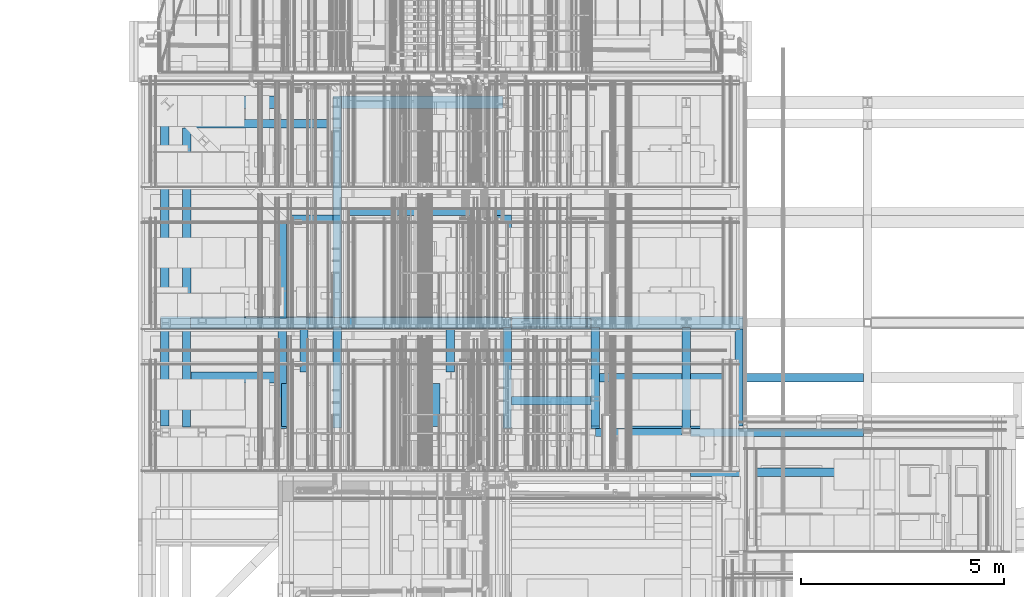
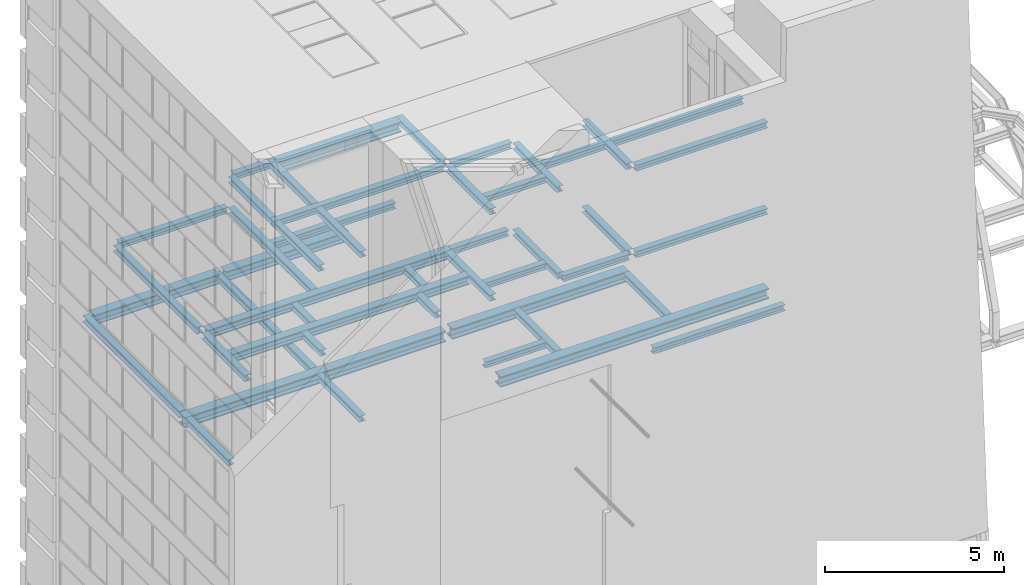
# One storey, part 5 of 583: 47 beams.
"""IFC2X3 building model written with IfcOpenShell, lengths in metres."""

from ifc_helpers import new_model, entity, si_unit, converted_unit, derived_unit, money_unit, direction, frame, origin_with_axes, place, context, subcontext, project, spatial, polyline, outline, extrude, material, type_object, element, save


model = new_model("IFC2X3")

# Units and contexts
model_context = context("Model", 3, precision=1e-05, world=origin_with_axes(), true_north=direction((0.0, 1.0)))
body_context = subcontext(model_context, "Body", "Model", "MODEL_VIEW", scale=1.0)
ifc_project = project(units=[si_unit("LENGTHUNIT", "METRE"), si_unit("AREAUNIT", "SQUARE_METRE"), si_unit("VOLUMEUNIT", "CUBIC_METRE"), si_unit("ABSORBEDDOSEUNIT", "GRAY"), si_unit("AMOUNTOFSUBSTANCEUNIT", "MOLE"), si_unit("DOSEEQUIVALENTUNIT", "SIEVERT"), si_unit("ELECTRICCAPACITANCEUNIT", "FARAD"), si_unit("ELECTRICCHARGEUNIT", "COULOMB"), si_unit("ELECTRICCONDUCTANCEUNIT", "SIEMENS"), si_unit("ELECTRICCURRENTUNIT", "AMPERE"), si_unit("ELECTRICRESISTANCEUNIT", "OHM"), si_unit("ELECTRICVOLTAGEUNIT", "VOLT"), si_unit("ENERGYUNIT", "JOULE"), si_unit("FORCEUNIT", "NEWTON"), si_unit("FREQUENCYUNIT", "HERTZ"), si_unit("ILLUMINANCEUNIT", "LUX"), si_unit("INDUCTANCEUNIT", "HENRY"), si_unit("LUMINOUSFLUXUNIT", "LUMEN"), si_unit("LUMINOUSINTENSITYUNIT", "CANDELA"), si_unit("MAGNETICFLUXDENSITYUNIT", "TESLA"), si_unit("MAGNETICFLUXUNIT", "WEBER"), si_unit("MASSUNIT", "GRAM"), converted_unit("PLANEANGLEUNIT", "degree", entity("IfcReal", 0.0174532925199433), si_unit("PLANEANGLEUNIT", "RADIAN"), dimensions=[0, 0, 0, 0, 0, 0, 0]), si_unit("POWERUNIT", "WATT"), si_unit("PRESSUREUNIT", "PASCAL"), si_unit("RADIOACTIVITYUNIT", "BECQUEREL"), si_unit("SOLIDANGLEUNIT", "STERADIAN"), si_unit("THERMODYNAMICTEMPERATUREUNIT", "KELVIN"), si_unit("TIMEUNIT", "SECOND"), derived_unit("ACCELERATIONUNIT", [(si_unit("LENGTHUNIT", "METRE"), 1), (si_unit("TIMEUNIT", "SECOND"), -2)]), derived_unit("ANGULARVELOCITYUNIT", [(converted_unit("PLANEANGLEUNIT", "degree", entity("IfcReal", 0.0174532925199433), si_unit("PLANEANGLEUNIT", "RADIAN"), dimensions=[0, 0, 0, 0, 0, 0, 0]), 1), (si_unit("TIMEUNIT", "SECOND"), -1)]), derived_unit("CURVATUREUNIT", [(converted_unit("PLANEANGLEUNIT", "degree", entity("IfcReal", 0.0174532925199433), si_unit("PLANEANGLEUNIT", "RADIAN"), dimensions=[0, 0, 0, 0, 0, 0, 0]), 1), (si_unit("LENGTHUNIT", "METRE"), -1)]), derived_unit("DYNAMICVISCOSITYUNIT", [(si_unit("PRESSUREUNIT", "PASCAL"), 1), (si_unit("TIMEUNIT", "SECOND"), 1)]), derived_unit("HEATFLUXDENSITYUNIT", [(si_unit("POWERUNIT", "WATT"), 1), (si_unit("LENGTHUNIT", "METRE"), -2)]), derived_unit("HEATINGVALUEUNIT", [(si_unit("ENERGYUNIT", "JOULE"), 1), (si_unit("MASSUNIT", "GRAM"), -1)]), derived_unit("INTEGERCOUNTRATEUNIT", [(si_unit("TIMEUNIT", "SECOND"), -1)]), derived_unit("IONCONCENTRATIONUNIT", [(si_unit("MASSUNIT", "GRAM"), 1), (si_unit("VOLUMEUNIT", "CUBIC_METRE"), -1)]), derived_unit("ISOTHERMALMOISTURECAPACITYUNIT", [(si_unit("VOLUMEUNIT", "CUBIC_METRE"), 1), (si_unit("MASSUNIT", "GRAM"), -1)]), derived_unit("KINEMATICVISCOSITYUNIT", [(si_unit("AREAUNIT", "SQUARE_METRE"), 1), (si_unit("TIMEUNIT", "SECOND"), -1)]), derived_unit("LINEARFORCEUNIT", [(si_unit("FORCEUNIT", "NEWTON"), 1), (si_unit("LENGTHUNIT", "METRE"), -1)]), derived_unit("LINEARMOMENTUNIT", [(si_unit("FORCEUNIT", "NEWTON"), 1), (si_unit("LENGTHUNIT", "METRE"), -1)]), derived_unit("LINEARSTIFFNESSUNIT", [(si_unit("FORCEUNIT", "NEWTON"), 1), (si_unit("LENGTHUNIT", "METRE"), -1)]), derived_unit("LINEARVELOCITYUNIT", [(si_unit("LENGTHUNIT", "METRE"), 1), (si_unit("TIMEUNIT", "SECOND"), -1)]), derived_unit("LUMINOUSINTENSITYDISTRIBUTIONUNIT", [(si_unit("LUMINOUSINTENSITYUNIT", "CANDELA"), 1), (si_unit("LUMINOUSFLUXUNIT", "LUMEN"), -1)]), derived_unit("MASSDENSITYUNIT", [(si_unit("MASSUNIT", "GRAM"), 1), (si_unit("VOLUMEUNIT", "CUBIC_METRE"), -1)]), derived_unit("MASSFLOWRATEUNIT", [(si_unit("MASSUNIT", "GRAM"), 1), (si_unit("TIMEUNIT", "SECOND"), -1)]), derived_unit("MASSPERLENGTHUNIT", [(si_unit("MASSUNIT", "GRAM"), 1), (si_unit("LENGTHUNIT", "METRE"), -1)]), derived_unit("MODULUSOFELASTICITYUNIT", [(si_unit("FORCEUNIT", "NEWTON"), 1), (si_unit("AREAUNIT", "SQUARE_METRE"), -1)]), derived_unit("MODULUSOFLINEARSUBGRADEREACTIONUNIT", [(si_unit("FORCEUNIT", "NEWTON"), 1), (si_unit("LENGTHUNIT", "METRE"), -2)]), derived_unit("MODULUSOFROTATIONALSUBGRADEREACTIONUNIT", [(si_unit("FORCEUNIT", "NEWTON"), 1), (si_unit("LENGTHUNIT", "METRE"), 1)]), derived_unit("MODULUSOFSUBGRADEREACTIONUNIT", [(si_unit("FORCEUNIT", "NEWTON"), 1), (si_unit("VOLUMEUNIT", "CUBIC_METRE"), -1)]), derived_unit("MOISTUREDIFFUSIVITYUNIT", [(si_unit("VOLUMEUNIT", "CUBIC_METRE"), 1), (si_unit("TIMEUNIT", "SECOND"), -1)]), derived_unit("MOLECULARWEIGHTUNIT", [(si_unit("MASSUNIT", "GRAM"), 1), (si_unit("AMOUNTOFSUBSTANCEUNIT", "MOLE"), -1)]), derived_unit("PLANARFORCEUNIT", [(si_unit("FORCEUNIT", "NEWTON"), 1), (si_unit("LENGTHUNIT", "METRE"), -2)]), derived_unit("ROTATIONALFREQUENCYUNIT", [(si_unit("TIMEUNIT", "SECOND"), -1)]), derived_unit("ROTATIONALMASSUNIT", [(si_unit("MASSUNIT", "GRAM"), 1), (si_unit("LENGTHUNIT", "METRE"), 2)]), derived_unit("ROTATIONALSTIFFNESSUNIT", [(si_unit("FORCEUNIT", "NEWTON"), 1), (si_unit("LENGTHUNIT", "METRE"), 1), (converted_unit("PLANEANGLEUNIT", "degree", entity("IfcReal", 0.0174532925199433), si_unit("PLANEANGLEUNIT", "RADIAN"), dimensions=[0, 0, 0, 0, 0, 0, 0]), -1)]), derived_unit("SECTIONAREAINTEGRALUNIT", [(si_unit("LENGTHUNIT", "METRE"), 5)]), derived_unit("SECTIONMODULUSUNIT", [(si_unit("LENGTHUNIT", "METRE"), 3)]), derived_unit("SHEARMODULUSUNIT", [(si_unit("FORCEUNIT", "NEWTON"), 1), (si_unit("AREAUNIT", "SQUARE_METRE"), -1)]), derived_unit("SOUNDPOWERUNIT", [(si_unit("ENERGYUNIT", "JOULE"), 1), (si_unit("TIMEUNIT", "SECOND"), -1)]), derived_unit("SPECIFICHEATCAPACITYUNIT", [(si_unit("FORCEUNIT", "NEWTON"), 1), (si_unit("MASSUNIT", "GRAM"), -1), (si_unit("THERMODYNAMICTEMPERATUREUNIT", "KELVIN"), -1)]), derived_unit("TEMPERATUREGRADIENTUNIT", [(si_unit("THERMODYNAMICTEMPERATUREUNIT", "KELVIN"), 1), (si_unit("LENGTHUNIT", "METRE"), -1)]), derived_unit("THERMALADMITTANCEUNIT", [(si_unit("POWERUNIT", "WATT"), 1), (si_unit("AREAUNIT", "SQUARE_METRE"), -1), (si_unit("THERMODYNAMICTEMPERATUREUNIT", "KELVIN"), -1)]), derived_unit("THERMALCONDUCTANCEUNIT", [(si_unit("POWERUNIT", "WATT"), 1), (si_unit("LENGTHUNIT", "METRE"), -1), (si_unit("THERMODYNAMICTEMPERATUREUNIT", "KELVIN"), -1)]), derived_unit("THERMALEXPANSIONCOEFFICIENTUNIT", [(si_unit("THERMODYNAMICTEMPERATUREUNIT", "KELVIN"), -1)]), derived_unit("THERMALRESISTANCEUNIT", [(si_unit("AREAUNIT", "SQUARE_METRE"), 1), (si_unit("POWERUNIT", "WATT"), -1)]), derived_unit("THERMALTRANSMITTANCEUNIT", [(si_unit("POWERUNIT", "WATT"), 1), (si_unit("AREAUNIT", "SQUARE_METRE"), -1), (si_unit("THERMODYNAMICTEMPERATUREUNIT", "KELVIN"), -1)]), derived_unit("TORQUEUNIT", [(si_unit("FORCEUNIT", "NEWTON"), 1), (si_unit("LENGTHUNIT", "METRE"), 1)]), derived_unit("VAPORPERMEABILITYUNIT", [(si_unit("MASSUNIT", "GRAM"), 1), (si_unit("TIMEUNIT", "SECOND"), -1)]), derived_unit("VOLUMETRICFLOWRATEUNIT", [(si_unit("VOLUMEUNIT", "CUBIC_METRE"), 1), (si_unit("TIMEUNIT", "SECOND"), -1)]), derived_unit("WARPINGCONSTANTUNIT", [(si_unit("LENGTHUNIT", "METRE"), 6)]), derived_unit("WARPINGMOMENTUNIT", [(si_unit("FORCEUNIT", "NEWTON"), 1), (si_unit("LENGTHUNIT", "METRE"), 2)]), money_unit("GBP")], contexts=[model_context])

# Site, building, storey
site_placement = place(None, origin_with_axes())
site = spatial("IfcSite", under=ifc_project, at=site_placement, Name="Site", CompositionType="ELEMENT")
building_placement = place(site_placement, origin_with_axes())
building = spatial("IfcBuilding", under=site, at=building_placement, Name="Building01", CompositionType="ELEMENT")
storey_placement = place(building_placement, frame((0.0, 0.0, 20.78), z_axis=(0.0, 0.0, 1.0), x_axis=(1.0, 0.0, 0.0)))
storey = spatial("IfcBuildingStorey", under=building, at=storey_placement, Name="RL", CompositionType="ELEMENT", Elevation=20.78)

# Beams
ifc_material = material(Name="A_BSUK_Beams_Steel")
beam_type = type_object("IfcBeamType", Name="A-Beams-Steel", PredefinedType="BEAM")
beam_1_placement = place(storey_placement, frame((0.56275, 8.6408, -6.0532), z_axis=(0.0, -1.0, 0.0), x_axis=(1.0, 0.0, 0.0)))
element("IfcBeam", 1, at=beam_1_placement, inside=storey, type_object=beam_type, material=ifc_material, Name="A-Beams-Steel", ObjectType="A-Beams-Steel", context=body_context, shape_type="SweptSolid", body=[
    extrude(outline(polyline([(0.2036, 0.0), (0.2036, 0.011), (0.1054, 0.011), (0.1054, 0.1922), (0.2036, 0.1922), (0.2036, 0.2032), (0.0, 0.2032), (0.0, 0.1922), (0.0982, 0.1922), (0.0982, 0.011), (0.0, 0.011), (0.0, 0.0), (0.2036, 0.0)])), origin_with_axes(), (0.0, 0.0, 1.0), 2.3816),
])
beam_2_placement = place(storey_placement, frame((0.7691, 14.0688, -6.0532), z_axis=(1.0, 0.0, 0.0), x_axis=(0.0, 1.0, 0.0)))
element("IfcBeam", 2, at=beam_2_placement, inside=storey, type_object=beam_type, material=ifc_material, Name="A-Beams-Steel", ObjectType="A-Beams-Steel", context=body_context, shape_type="SweptSolid", body=[
    extrude(outline(polyline([(0.3112, 0.0), (0.3112, 0.025), (0.1635, 0.025), (0.1635, 0.3021), (0.3112, 0.3021), (0.3112, 0.3271), (0.0, 0.3271), (0.0, 0.3021), (0.1477, 0.3021), (0.1477, 0.025), (0.0, 0.025), (0.0, 0.0), (0.3112, 0.0)])), origin_with_axes(), (0.0, 0.0, 1.0), 4.03635),
])
beam_3_placement = place(storey_placement, frame((0.56, 8.6408, -6.2025), z_axis=(1.0, 0.0, 0.0), x_axis=(0.0, 1.0, 0.0)))
element("IfcBeam", 3, at=beam_3_placement, inside=storey, type_object=beam_type, material=ifc_material, Name="A-Beams-Steel", ObjectType="A-Beams-Steel", context=body_context, shape_type="SweptSolid", body=[
    extrude(outline(polyline([(0.3184, 0.0), (0.3184, 0.0377), (0.1707, 0.0377), (0.1707, 0.3148), (0.3184, 0.3148), (0.3184, 0.3525), (0.0, 0.3525), (0.0, 0.3148), (0.1477, 0.3148), (0.1477, 0.0377), (0.0, 0.0377), (0.0, 0.0), (0.3184, 0.0)])), origin_with_axes(), (0.0, 0.0, 1.0), 8.42545),
])
beam_4_placement = place(storey_placement, frame((9.19455, 8.6408, -6.2025), z_axis=(1.0, 0.0, 0.0), x_axis=(0.0, 1.0, 0.0)))
element("IfcBeam", 4, at=beam_4_placement, inside=storey, type_object=beam_type, material=ifc_material, Name="A-Beams-Steel", ObjectType="A-Beams-Steel", context=body_context, shape_type="SweptSolid", body=[
    extrude(outline(polyline([(0.3184, 0.0), (0.3184, 0.0377), (0.1707, 0.0377), (0.1707, 0.3148), (0.3184, 0.3148), (0.3184, 0.3525), (0.0, 0.3525), (0.0, 0.3148), (0.1477, 0.3148), (0.1477, 0.0377), (0.0, 0.0377), (0.0, 0.0), (0.3184, 0.0)])), origin_with_axes(), (0.0, 0.0, 1.0), 5.70725),
])
beam_5_placement = place(storey_placement, frame((9.19455, 5.9408, -6.2025), z_axis=(1.0, 0.0, 0.0), x_axis=(0.0, 1.0, 0.0)))
element("IfcBeam", 5, at=beam_5_placement, inside=storey, type_object=beam_type, material=ifc_material, Name="A-Beams-Steel", ObjectType="A-Beams-Steel", context=body_context, shape_type="SweptSolid", body=[
    extrude(outline(polyline([(0.3184, 0.0), (0.3184, 0.0377), (0.1707, 0.0377), (0.1707, 0.3148), (0.3184, 0.3148), (0.3184, 0.3525), (0.0, 0.3525), (0.0, 0.3148), (0.1477, 0.3148), (0.1477, 0.0377), (0.0, 0.0377), (0.0, 0.0), (0.3184, 0.0)])), origin_with_axes(), (0.0, 0.0, 1.0), 8.66545),
])
for number, where, z_axis, x_axis, name in (
    (6, (0.56, 14.38, -6.0532), (0.0, -1.0, 0.0), (1.0, 0.0, 0.0), "A-Beams-Steel"),
    (7, (4.80545, 14.38, -6.0722), (0.0, -1.0, 0.0), (1.0, 0.0, 0.0), "A-Beams-Steel"),
):
    element("IfcBeam", number, at=place(storey_placement, frame(where, z_axis=z_axis, x_axis=x_axis)), inside=storey, type_object=beam_type, material=ifc_material, Name=name, ObjectType="A-Beams-Steel", context=body_context, shape_type="SweptSolid", body=[
        extrude(outline(polyline([(0.2091, 0.0), (0.2091, 0.0205), (0.1109, 0.0205), (0.1109, 0.2017), (0.2091, 0.2017), (0.2091, 0.2222), (0.0, 0.2222), (0.0, 0.2017), (0.0982, 0.2017), (0.0982, 0.0205), (0.0, 0.0205), (0.0, 0.0), (0.2091, 0.0)])), origin_with_axes(), (0.0, 0.0, 1.0), 5.4208),
    ])
for number, where, z_axis, x_axis, name in (
    (8, (4.8082, 8.6408, -6.0532), (0.0, -1.0, 0.0), (1.0, 0.0, 0.0), "A-Beams-Steel"),
    (9, (11.1582, 8.6408, -6.0532), (0.0, -1.0, 0.0), (1.0, 0.0, 0.0), "A-Beams-Steel"),
    (10, (14.6982, 8.6408, -6.0532), (0.0, -1.0, 0.0), (1.0, 0.0, 0.0), "A-Beams-Steel"),
):
    element("IfcBeam", number, at=place(storey_placement, frame(where, z_axis=z_axis, x_axis=x_axis)), inside=storey, type_object=beam_type, material=ifc_material, Name=name, ObjectType="A-Beams-Steel", context=body_context, shape_type="SweptSolid", body=[
        extrude(outline(polyline([(0.2036, 0.0), (0.2036, 0.011), (0.1054, 0.011), (0.1054, 0.1922), (0.2036, 0.1922), (0.2036, 0.2032), (0.0, 0.2032), (0.0, 0.1922), (0.0982, 0.1922), (0.0982, 0.011), (0.0, 0.011), (0.0, 0.0), (0.2036, 0.0)])), origin_with_axes(), (0.0, 0.0, 1.0), 2.3816),
    ])
beam_6_placement = place(storey_placement, frame((9.1918, 6.7782, -6.0532), z_axis=(1.0, 0.0, 0.0), x_axis=(0.0, 1.0, 0.0)))
element("IfcBeam", 11, at=beam_6_placement, inside=storey, type_object=beam_type, material=ifc_material, Name="A-Beams-Steel", ObjectType="A-Beams-Steel", context=body_context, shape_type="SweptSolid", body=[
    extrude(outline(polyline([(0.2036, 0.0), (0.2036, 0.011), (0.1054, 0.011), (0.1054, 0.1922), (0.2036, 0.1922), (0.2036, 0.2032), (0.0, 0.2032), (0.0, 0.1922), (0.0982, 0.1922), (0.0982, 0.011), (0.0, 0.011), (0.0, 0.0), (0.2036, 0.0)])), origin_with_axes(), (0.0, 0.0, 1.0), 1.9664),
])
beam_7_placement = place(storey_placement, frame((13.60455, 5.0182, -6.0532), z_axis=(1.0, 0.0, 0.0), x_axis=(0.0, 1.0, 0.0)))
element("IfcBeam", 12, at=beam_7_placement, inside=storey, type_object=beam_type, material=ifc_material, Name="A-Beams-Steel", ObjectType="A-Beams-Steel", context=body_context, shape_type="SweptSolid", body=[
    extrude(outline(polyline([(0.2036, 0.0), (0.2036, 0.011), (0.1054, 0.011), (0.1054, 0.1922), (0.2036, 0.1922), (0.2036, 0.2032), (0.0, 0.2032), (0.0, 0.1922), (0.0982, 0.1922), (0.0982, 0.011), (0.0, 0.011), (0.0, 0.0), (0.2036, 0.0)])), origin_with_axes(), (0.0, 0.0, 1.0), 4.2509),
])
beam_8_placement = place(storey_placement, frame((5.01455, 14.0688, -6.0532), z_axis=(1.0, 0.0, 0.0), x_axis=(0.0, 1.0, 0.0)))
element("IfcBeam", 13, at=beam_8_placement, inside=storey, type_object=beam_type, material=ifc_material, Name="A-Beams-Steel", ObjectType="A-Beams-Steel", context=body_context, shape_type="SweptSolid", body=[
    extrude(outline(polyline([(0.3112, 0.0), (0.3112, 0.025), (0.1635, 0.025), (0.1635, 0.3021), (0.3112, 0.3021), (0.3112, 0.3271), (0.0, 0.3271), (0.0, 0.3021), (0.1477, 0.3021), (0.1477, 0.025), (0.0, 0.025), (0.0, 0.0), (0.3112, 0.0)])), origin_with_axes(), (0.0, 0.0, 1.0), 3.9709),
])
beam_9_placement = place(storey_placement, frame((5.012271, 11.1308, -0.5525), z_axis=(1.0, 0.0, 0.0), x_axis=(0.0, 1.0, 0.0)))
element("IfcBeam", 14, at=beam_9_placement, inside=storey, type_object=beam_type, material=ifc_material, Name="A-Beams-Steel", ObjectType="A-Beams-Steel", context=body_context, shape_type="SweptSolid", body=[
    extrude(outline(polyline([(0.3184, 0.0), (0.3184, 0.0377), (0.1707, 0.0377), (0.1707, 0.3148), (0.3184, 0.3148), (0.3184, 0.3525), (0.0, 0.3525), (0.0, 0.3148), (0.1477, 0.3148), (0.1477, 0.0377), (0.0, 0.0377), (0.0, 0.0), (0.3184, 0.0)])), origin_with_axes(), (0.0, 0.0, 1.0), 3.975929),
])
beam_10_placement = place(storey_placement, frame((3.4512, 11.2456, -0.4032), z_axis=(0.0, -1.0, 0.0), x_axis=(1.0, 0.0, 0.0)))
element("IfcBeam", 15, at=beam_10_placement, inside=storey, type_object=beam_type, material=ifc_material, Name="A-Beams-Steel", ObjectType="A-Beams-Steel", context=body_context, shape_type="SweptSolid", body=[
    extrude(outline(polyline([(0.2036, 0.0), (0.2036, 0.011), (0.1054, 0.011), (0.1054, 0.1922), (0.2036, 0.1922), (0.2036, 0.2032), (0.0, 0.2032), (0.0, 0.1922), (0.0982, 0.1922), (0.0982, 0.011), (0.0, 0.011), (0.0, 0.0), (0.2036, 0.0)])), origin_with_axes(), (0.0, 0.0, 1.0), 2.3424),
])
beam_11_placement = place(storey_placement, frame((4.808222, 11.4492, -0.4032), z_axis=(0.0, -1.0, 0.0), x_axis=(1.0, 0.0, 0.0)))
element("IfcBeam", 16, at=beam_11_placement, inside=storey, type_object=beam_type, material=ifc_material, Name="A-Beams-Steel", ObjectType="A-Beams-Steel", context=body_context, shape_type="SweptSolid", body=[
    extrude(outline(polyline([(0.2036, 0.0), (0.2036, 0.011), (0.1054, 0.011), (0.1054, 0.1922), (0.2036, 0.1922), (0.2036, 0.2032), (0.0, 0.2032), (0.0, 0.1922), (0.0982, 0.1922), (0.0982, 0.011), (0.0, 0.011), (0.0, 0.0), (0.2036, 0.0)])), origin_with_axes(), (0.0, 0.0, 1.0), 2.546),
])
beam_12_placement = place(storey_placement, frame((4.808222, 8.6968, -0.4032), z_axis=(0.0, -1.0, 0.0), x_axis=(1.0, 0.0, 0.0)))
element("IfcBeam", 17, at=beam_12_placement, inside=storey, type_object=beam_type, material=ifc_material, Name="A-Beams-Steel", ObjectType="A-Beams-Steel", context=body_context, shape_type="SweptSolid", body=[
    extrude(outline(polyline([(0.2036, 0.0), (0.2036, 0.011), (0.1054, 0.011), (0.1054, 0.1922), (0.2036, 0.1922), (0.2036, 0.2032), (0.0, 0.2032), (0.0, 0.1922), (0.0982, 0.1922), (0.0982, 0.011), (0.0, 0.011), (0.0, 0.0), (0.2036, 0.0)])), origin_with_axes(), (0.0, 0.0, 1.0), 2.49165),
])
beam_13_placement = place(storey_placement, frame((3.4512, 8.6968, -0.4032), z_axis=(0.0, -1.0, 0.0), x_axis=(1.0, 0.0, 0.0)))
element("IfcBeam", 18, at=beam_13_placement, inside=storey, type_object=beam_type, material=ifc_material, Name="A-Beams-Steel", ObjectType="A-Beams-Steel", context=body_context, shape_type="SweptSolid", body=[
    extrude(outline(polyline([(0.2036, 0.0), (0.2036, 0.011), (0.1054, 0.011), (0.1054, 0.1922), (0.2036, 0.1922), (0.2036, 0.2032), (0.0, 0.2032), (0.0, 0.1922), (0.0982, 0.1922), (0.0982, 0.011), (0.0, 0.011), (0.0, 0.0), (0.2036, 0.0)])), origin_with_axes(), (0.0, 0.0, 1.0), 2.4936),
])
beam_14_placement = place(storey_placement, frame((3.6548, 11.2456, -0.4032), z_axis=(1.0, 0.0, 0.0), x_axis=(0.0, 1.0, 0.0)))
element("IfcBeam", 19, at=beam_14_placement, inside=storey, type_object=beam_type, material=ifc_material, Name="A-Beams-Steel", ObjectType="A-Beams-Steel", context=body_context, shape_type="SweptSolid", body=[
    extrude(outline(polyline([(0.2036, 0.0), (0.2036, 0.011), (0.1054, 0.011), (0.1054, 0.1922), (0.2036, 0.1922), (0.2036, 0.2032), (0.0, 0.2032), (0.0, 0.1922), (0.0982, 0.1922), (0.0982, 0.011), (0.0, 0.011), (0.0, 0.0), (0.2036, 0.0)])), origin_with_axes(), (0.0, 0.0, 1.0), 1.153422),
])
beam_15_placement = place(storey_placement, frame((8.9882, 11.4492, -0.4032), z_axis=(0.0, -1.0, 0.0), x_axis=(1.0, 0.0, 0.0)))
element("IfcBeam", 20, at=beam_15_placement, inside=storey, type_object=beam_type, material=ifc_material, Name="A-Beams-Steel", ObjectType="A-Beams-Steel", context=body_context, shape_type="SweptSolid", body=[
    extrude(outline(polyline([(0.2036, 0.0), (0.2036, 0.011), (0.1054, 0.011), (0.1054, 0.1922), (0.2036, 0.1922), (0.2036, 0.2032), (0.0, 0.2032), (0.0, 0.1922), (0.0982, 0.1922), (0.0982, 0.011), (0.0, 0.011), (0.0, 0.0), (0.2036, 0.0)])), origin_with_axes(), (0.0, 0.0, 1.0), 2.546),
])
beam_16_placement = place(storey_placement, frame((8.9882, 8.6968, -0.4032), z_axis=(0.0, -1.0, 0.0), x_axis=(1.0, 0.0, 0.0)))
element("IfcBeam", 21, at=beam_16_placement, inside=storey, type_object=beam_type, material=ifc_material, Name="A-Beams-Steel", ObjectType="A-Beams-Steel", context=body_context, shape_type="SweptSolid", body=[
    extrude(outline(polyline([(0.2036, 0.0), (0.2036, 0.011), (0.1054, 0.011), (0.1054, 0.1922), (0.2036, 0.1922), (0.2036, 0.2032), (0.0, 0.2032), (0.0, 0.1922), (0.0982, 0.1922), (0.0982, 0.011), (0.0, 0.011), (0.0, 0.0), (0.2036, 0.0)])), origin_with_axes(), (0.0, 0.0, 1.0), 2.4968),
])
beam_17_placement = place(storey_placement, frame((13.3982, 8.6857, -0.4032), z_axis=(0.0, -1.0, 0.0), x_axis=(1.0, 0.0, 0.0)))
element("IfcBeam", 22, at=beam_17_placement, inside=storey, type_object=beam_type, material=ifc_material, Name="A-Beams-Steel", ObjectType="A-Beams-Steel", context=body_context, shape_type="SweptSolid", body=[
    extrude(outline(polyline([(0.2036, 0.0), (0.2036, 0.011), (0.1054, 0.011), (0.1054, 0.1922), (0.2036, 0.1922), (0.2036, 0.2032), (0.0, 0.2032), (0.0, 0.1922), (0.0982, 0.1922), (0.0982, 0.011), (0.0, 0.011), (0.0, 0.0), (0.2036, 0.0)])), origin_with_axes(), (0.0, 0.0, 1.0), 2.4857),
])
beam_18_placement = place(storey_placement, frame((11.3618, 7.3482, -0.4032), z_axis=(1.0, 0.0, 0.0), x_axis=(0.0, 1.0, 0.0)))
element("IfcBeam", 23, at=beam_18_placement, inside=storey, type_object=beam_type, material=ifc_material, Name="A-Beams-Steel", ObjectType="A-Beams-Steel", context=body_context, shape_type="SweptSolid", body=[
    extrude(outline(polyline([(0.2036, 0.0), (0.2036, 0.011), (0.1054, 0.011), (0.1054, 0.1922), (0.2036, 0.1922), (0.2036, 0.2032), (0.0, 0.2032), (0.0, 0.1922), (0.0982, 0.1922), (0.0982, 0.011), (0.0, 0.011), (0.0, 0.0), (0.2036, 0.0)])), origin_with_axes(), (0.0, 0.0, 1.0), 2.0364),
])
beam_19_placement = place(storey_placement, frame((9.1918, 6.7782, -0.4032), z_axis=(1.0, 0.0, 0.0), x_axis=(0.0, 1.0, 0.0)))
element("IfcBeam", 24, at=beam_19_placement, inside=storey, type_object=beam_type, material=ifc_material, Name="A-Beams-Steel", ObjectType="A-Beams-Steel", context=body_context, shape_type="SweptSolid", body=[
    extrude(outline(polyline([(0.2036, 0.0), (0.2036, 0.011), (0.1054, 0.011), (0.1054, 0.1922), (0.2036, 0.1922), (0.2036, 0.2032), (0.0, 0.2032), (0.0, 0.1922), (0.0982, 0.1922), (0.0982, 0.011), (0.0, 0.011), (0.0, 0.0), (0.2036, 0.0)])), origin_with_axes(), (0.0, 0.0, 1.0), 1.9664),
])
beam_20_placement = place(storey_placement, frame((9.19515, 8.6982, -0.4032), z_axis=(1.0, 0.0, 0.0), x_axis=(0.0, 1.0, 0.0)))
element("IfcBeam", 25, at=beam_20_placement, inside=storey, type_object=beam_type, material=ifc_material, Name="A-Beams-Steel", ObjectType="A-Beams-Steel", context=body_context, shape_type="SweptSolid", body=[
    extrude(outline(polyline([(0.2036, 0.0), (0.2036, 0.011), (0.1054, 0.011), (0.1054, 0.1922), (0.2036, 0.1922), (0.2036, 0.2032), (0.0, 0.2032), (0.0, 0.1922), (0.0982, 0.1922), (0.0982, 0.011), (0.0, 0.011), (0.0, 0.0), (0.2036, 0.0)])), origin_with_axes(), (0.0, 0.0, 1.0), 1.9597),
])
beam_21_placement = place(storey_placement, frame((11.1582, 8.6857, -0.4032), z_axis=(0.0, -1.0, 0.0), x_axis=(1.0, 0.0, 0.0)))
element("IfcBeam", 26, at=beam_21_placement, inside=storey, type_object=beam_type, material=ifc_material, Name="A-Beams-Steel", ObjectType="A-Beams-Steel", context=body_context, shape_type="SweptSolid", body=[
    extrude(outline(polyline([(0.2036, 0.0), (0.2036, 0.011), (0.1054, 0.011), (0.1054, 0.1922), (0.2036, 0.1922), (0.2036, 0.2032), (0.0, 0.2032), (0.0, 0.1922), (0.0982, 0.1922), (0.0982, 0.011), (0.0, 0.011), (0.0, 0.0), (0.2036, 0.0)])), origin_with_axes(), (0.0, 0.0, 1.0), 2.4839),
])
beam_22_placement = place(storey_placement, frame((13.6018, 7.3482, -0.4032), z_axis=(1.0, 0.0, 0.0), x_axis=(0.0, 1.0, 0.0)))
element("IfcBeam", 27, at=beam_22_placement, inside=storey, type_object=beam_type, material=ifc_material, Name="A-Beams-Steel", ObjectType="A-Beams-Steel", context=body_context, shape_type="SweptSolid", body=[
    extrude(outline(polyline([(0.2036, 0.0), (0.2036, 0.011), (0.1054, 0.011), (0.1054, 0.1922), (0.2036, 0.1922), (0.2036, 0.2032), (0.0, 0.2032), (0.0, 0.1922), (0.0982, 0.1922), (0.0982, 0.011), (0.0, 0.011), (0.0, 0.0), (0.2036, 0.0)])), origin_with_axes(), (0.0, 0.0, 1.0), 4.2564),
])
beam_23_placement = place(storey_placement, frame((13.6, 5.9982, -0.4032), z_axis=(1.0, 0.0, 0.0), x_axis=(0.0, 1.0, 0.0)))
element("IfcBeam", 28, at=beam_23_placement, inside=storey, type_object=beam_type, material=ifc_material, Name="A-Beams-Steel", ObjectType="A-Beams-Steel", context=body_context, shape_type="SweptSolid", body=[
    extrude(outline(polyline([(0.2036, 0.0), (0.2036, 0.011), (0.1054, 0.011), (0.1054, 0.1922), (0.2036, 0.1922), (0.2036, 0.2032), (0.0, 0.2032), (0.0, 0.1922), (0.0982, 0.1922), (0.0982, 0.011), (0.0, 0.011), (0.0, 0.0), (0.2036, 0.0)])), origin_with_axes(), (0.0, 0.0, 1.0), 4.2582),
])
beam_24_placement = place(storey_placement, frame((3.4512, 8.6968, -0.4158), z_axis=(1.0, 0.0, 0.0), x_axis=(0.0, 1.0, 0.0)))
element("IfcBeam", 29, at=beam_24_placement, inside=storey, type_object=beam_type, material=ifc_material, Name="A-Beams-Steel", ObjectType="A-Beams-Steel", context=body_context, shape_type="SweptSolid", body=[
    extrude(outline(polyline([(0.2064, 0.0), (0.2064, 0.0173), (0.1082, 0.0173), (0.1082, 0.1985), (0.2064, 0.1985), (0.2064, 0.2158), (0.0, 0.2158), (0.0, 0.1985), (0.0982, 0.1985), (0.0982, 0.0173), (0.0, 0.0173), (0.0, 0.0), (0.2064, 0.0)])), origin_with_axes(), (0.0, 0.0, 1.0), 5.53365),
])
beam_25_placement = place(storey_placement, frame((1.0982, 8.667427, -3.3532), z_axis=(0.0, -1.0, 0.0), x_axis=(1.0, 0.0, 0.0)))
element("IfcBeam", 30, at=beam_25_placement, inside=storey, type_object=beam_type, material=ifc_material, Name="A-Beams-Steel", ObjectType="A-Beams-Steel", context=body_context, shape_type="SweptSolid", body=[
    extrude(outline(polyline([(0.2036, 0.0), (0.2036, 0.011), (0.1054, 0.011), (0.1054, 0.1922), (0.2036, 0.1922), (0.2036, 0.2032), (0.0, 0.2032), (0.0, 0.1922), (0.0982, 0.1922), (0.0982, 0.011), (0.0, 0.011), (0.0, 0.0), (0.2036, 0.0)])), origin_with_axes(), (0.0, 0.0, 1.0), 2.4348),
])
beam_26_placement = place(storey_placement, frame((1.3032, 13.5982, -3.3532), z_axis=(1.0, 0.0, 0.0), x_axis=(0.0, 1.0, 0.0)))
element("IfcBeam", 31, at=beam_26_placement, inside=storey, type_object=beam_type, material=ifc_material, Name="A-Beams-Steel", ObjectType="A-Beams-Steel", context=body_context, shape_type="SweptSolid", body=[
    extrude(outline(polyline([(0.2036, 0.0), (0.2036, 0.011), (0.1054, 0.011), (0.1054, 0.1922), (0.2036, 0.1922), (0.2036, 0.2032), (0.0, 0.2032), (0.0, 0.1922), (0.0982, 0.1922), (0.0982, 0.011), (0.0, 0.011), (0.0, 0.0), (0.2036, 0.0)])), origin_with_axes(), (0.0, 0.0, 1.0), 3.5036),
])
for number, where, z_axis, x_axis, name in (
    (32, (1.0968, 13.5982, -3.3658), (0.0, -1.0, 0.0), (1.0, 0.0, 0.0), "A-Beams-Steel"),
    (33, (4.8068, 13.5982, -3.3658), (0.0, -1.0, 0.0), (1.0, 0.0, 0.0), "A-Beams-Steel"),
):
    element("IfcBeam", number, at=place(storey_placement, frame(where, z_axis=z_axis, x_axis=x_axis)), inside=storey, type_object=beam_type, material=ifc_material, Name=name, ObjectType="A-Beams-Steel", context=body_context, shape_type="SweptSolid", body=[
        extrude(outline(polyline([(0.2064, 0.0), (0.2064, 0.0173), (0.1082, 0.0173), (0.1082, 0.1985), (0.2064, 0.1985), (0.2064, 0.2158), (0.0, 0.2158), (0.0, 0.1985), (0.0982, 0.1985), (0.0982, 0.0173), (0.0, 0.0173), (0.0, 0.0), (0.2064, 0.0)])), origin_with_axes(), (0.0, 0.0, 1.0), 4.665573),
    ])
for number, where, z_axis, x_axis, name in (
    (34, (3.5382, 7.308892, -3.3532), (0.0, -1.0, 0.0), (1.0, 0.0, 0.0), "A-Beams-Steel"),
    (35, (3.9882, 8.647936, -3.3532), (0.0, -1.0, 0.0), (1.0, 0.0, 0.0), "A-Beams-Steel"),
    (36, (7.5882, 8.647936, -3.3532), (0.0, -1.0, 0.0), (1.0, 0.0, 0.0), "A-Beams-Steel"),
    (37, (7.2382, 7.308892, -3.3532), (0.0, -1.0, 0.0), (1.0, 0.0, 0.0), "A-Beams-Steel"),
):
    element("IfcBeam", number, at=place(storey_placement, frame(where, z_axis=z_axis, x_axis=x_axis)), inside=storey, type_object=beam_type, material=ifc_material, Name=name, ObjectType="A-Beams-Steel", context=body_context, shape_type="SweptSolid", body=[
        extrude(outline(polyline([(0.2036, 0.0), (0.2036, 0.011), (0.1054, 0.011), (0.1054, 0.1922), (0.2036, 0.1922), (0.2036, 0.2032), (0.0, 0.2032), (0.0, 0.1922), (0.0982, 0.1922), (0.0982, 0.011), (0.0, 0.011), (0.0, 0.0), (0.2036, 0.0)])), origin_with_axes(), (0.0, 0.0, 1.0), 1.063492),
    ])
beam_27_placement = place(storey_placement, frame((8.9882, 8.6857, -3.3532), z_axis=(0.0, -1.0, 0.0), x_axis=(1.0, 0.0, 0.0)))
element("IfcBeam", 38, at=beam_27_placement, inside=storey, type_object=beam_type, material=ifc_material, Name="A-Beams-Steel", ObjectType="A-Beams-Steel", context=body_context, shape_type="SweptSolid", body=[
    extrude(outline(polyline([(0.2036, 0.0), (0.2036, 0.011), (0.1054, 0.011), (0.1054, 0.1922), (0.2036, 0.1922), (0.2036, 0.2032), (0.0, 0.2032), (0.0, 0.1922), (0.0982, 0.1922), (0.0982, 0.011), (0.0, 0.011), (0.0, 0.0), (0.2036, 0.0)])), origin_with_axes(), (0.0, 0.0, 1.0), 2.4857),
])
beam_28_placement = place(storey_placement, frame((11.1582, 8.6857, -3.3532), z_axis=(0.0, -1.0, 0.0), x_axis=(1.0, 0.0, 0.0)))
element("IfcBeam", 39, at=beam_28_placement, inside=storey, type_object=beam_type, material=ifc_material, Name="A-Beams-Steel", ObjectType="A-Beams-Steel", context=body_context, shape_type="SweptSolid", body=[
    extrude(outline(polyline([(0.2036, 0.0), (0.2036, 0.011), (0.1054, 0.011), (0.1054, 0.1922), (0.2036, 0.1922), (0.2036, 0.2032), (0.0, 0.2032), (0.0, 0.1922), (0.0982, 0.1922), (0.0982, 0.011), (0.0, 0.011), (0.0, 0.0), (0.2036, 0.0)])), origin_with_axes(), (0.0, 0.0, 1.0), 2.483901),
])
beam_29_placement = place(storey_placement, frame((13.3982, 8.6857, -3.3532), z_axis=(0.0, -1.0, 0.0), x_axis=(1.0, 0.0, 0.0)))
element("IfcBeam", 40, at=beam_29_placement, inside=storey, type_object=beam_type, material=ifc_material, Name="A-Beams-Steel", ObjectType="A-Beams-Steel", context=body_context, shape_type="SweptSolid", body=[
    extrude(outline(polyline([(0.2036, 0.0), (0.2036, 0.011), (0.1054, 0.011), (0.1054, 0.1922), (0.2036, 0.1922), (0.2036, 0.2032), (0.0, 0.2032), (0.0, 0.1922), (0.0982, 0.1922), (0.0982, 0.011), (0.0, 0.011), (0.0, 0.0), (0.2036, 0.0)])), origin_with_axes(), (0.0, 0.0, 1.0), 2.4857),
])
beam_30_placement = place(storey_placement, frame((9.1918, 6.7782, -3.3532), z_axis=(1.0, 0.0, 0.0), x_axis=(0.0, 1.0, 0.0)))
element("IfcBeam", 41, at=beam_30_placement, inside=storey, type_object=beam_type, material=ifc_material, Name="A-Beams-Steel", ObjectType="A-Beams-Steel", context=body_context, shape_type="SweptSolid", body=[
    extrude(outline(polyline([(0.2036, 0.0), (0.2036, 0.011), (0.1054, 0.011), (0.1054, 0.1922), (0.2036, 0.1922), (0.2036, 0.2032), (0.0, 0.2032), (0.0, 0.1922), (0.0982, 0.1922), (0.0982, 0.011), (0.0, 0.011), (0.0, 0.0), (0.2036, 0.0)])), origin_with_axes(), (0.0, 0.0, 1.0), 1.9682),
])
beam_31_placement = place(storey_placement, frame((9.1918, 8.698199, -3.3532), z_axis=(1.0, 0.0, 0.0), x_axis=(0.0, 1.0, 0.0)))
element("IfcBeam", 42, at=beam_31_placement, inside=storey, type_object=beam_type, material=ifc_material, Name="A-Beams-Steel", ObjectType="A-Beams-Steel", context=body_context, shape_type="SweptSolid", body=[
    extrude(outline(polyline([(0.2036, 0.0), (0.2036, 0.011), (0.1054, 0.011), (0.1054, 0.1922), (0.2036, 0.1922), (0.2036, 0.2032), (0.0, 0.2032), (0.0, 0.1922), (0.0982, 0.1922), (0.0982, 0.011), (0.0, 0.011), (0.0, 0.0), (0.2036, 0.0)])), origin_with_axes(), (0.0, 0.0, 1.0), 1.86305),
])
beam_32_placement = place(storey_placement, frame((13.6, 5.998199, -3.3532), z_axis=(1.0, 0.0, 0.0), x_axis=(0.0, 1.0, 0.0)))
element("IfcBeam", 43, at=beam_32_placement, inside=storey, type_object=beam_type, material=ifc_material, Name="A-Beams-Steel", ObjectType="A-Beams-Steel", context=body_context, shape_type="SweptSolid", body=[
    extrude(outline(polyline([(0.2036, 0.0), (0.2036, 0.011), (0.1054, 0.011), (0.1054, 0.1922), (0.2036, 0.1922), (0.2036, 0.2032), (0.0, 0.2032), (0.0, 0.1922), (0.0982, 0.1922), (0.0982, 0.011), (0.0, 0.011), (0.0, 0.0), (0.2036, 0.0)])), origin_with_axes(), (0.0, 0.0, 1.0), 4.26),
])
beam_33_placement = place(storey_placement, frame((11.261013, 5.998199, -3.3532), z_axis=(1.0, 0.0, 0.0), x_axis=(0.0, 1.0, 0.0)))
element("IfcBeam", 44, at=beam_33_placement, inside=storey, type_object=beam_type, material=ifc_material, Name="A-Beams-Steel", ObjectType="A-Beams-Steel", context=body_context, shape_type="SweptSolid", body=[
    extrude(outline(polyline([(0.2036, 0.0), (0.2036, 0.011), (0.1054, 0.011), (0.1054, 0.1922), (0.2036, 0.1922), (0.2036, 0.2032), (0.0, 0.2032), (0.0, 0.1922), (0.0982, 0.1922), (0.0982, 0.011), (0.0, 0.011), (0.0, 0.0), (0.2036, 0.0)])), origin_with_axes(), (0.0, 0.0, 1.0), 2.138987),
])
beam_34_placement = place(storey_placement, frame((5.0132, 11.4382, -3.3532), z_axis=(1.0, 0.0, 0.0), x_axis=(0.0, 1.0, 0.0)))
element("IfcBeam", 45, at=beam_34_placement, inside=storey, type_object=beam_type, material=ifc_material, Name="A-Beams-Steel", ObjectType="A-Beams-Steel", context=body_context, shape_type="SweptSolid", body=[
    extrude(outline(polyline([(0.2036, 0.0), (0.2036, 0.011), (0.1054, 0.011), (0.1054, 0.1922), (0.2036, 0.1922), (0.2036, 0.2032), (0.0, 0.2032), (0.0, 0.1922), (0.0982, 0.1922), (0.0982, 0.011), (0.0, 0.011), (0.0, 0.0), (0.2036, 0.0)])), origin_with_axes(), (0.0, 0.0, 1.0), 3.9736),
])
beam_35_placement = place(storey_placement, frame((1.3018, 8.667427, -3.4391), z_axis=(1.0, 0.0, 0.0), x_axis=(0.0, 1.0, 0.0)))
element("IfcBeam", 46, at=beam_35_placement, inside=storey, type_object=beam_type, material=ifc_material, Name="A-Beams-Steel", ObjectType="A-Beams-Steel", context=body_context, shape_type="SweptSolid", body=[
    extrude(outline(polyline([(0.2652, 0.0), (0.2652, 0.0317), (0.1422, 0.0317), (0.1422, 0.2574), (0.2652, 0.2574), (0.2652, 0.2891), (0.0, 0.2891), (0.0, 0.2574), (0.123, 0.2574), (0.123, 0.0317), (0.0, 0.0317), (0.0, 0.0), (0.2652, 0.0)])), origin_with_axes(), (0.0, 0.0, 1.0), 7.88305),
])
beam_36_placement = place(storey_placement, frame((1.3032, 7.3174, -3.4391), z_axis=(1.0, 0.0, 0.0), x_axis=(0.0, 1.0, 0.0)))
element("IfcBeam", 47, at=beam_36_placement, inside=storey, type_object=beam_type, material=ifc_material, Name="A-Beams-Steel", ObjectType="A-Beams-Steel", context=body_context, shape_type="SweptSolid", body=[
    extrude(outline(polyline([(0.2652, 0.0), (0.2652, 0.0317), (0.1422, 0.0317), (0.1422, 0.2574), (0.2652, 0.2574), (0.2652, 0.2891), (0.0, 0.2891), (0.0, 0.2574), (0.123, 0.2574), (0.123, 0.0317), (0.0, 0.0317), (0.0, 0.0), (0.2652, 0.0)])), origin_with_axes(), (0.0, 0.0, 1.0), 7.685),
])

save(model, "model.ifc")
